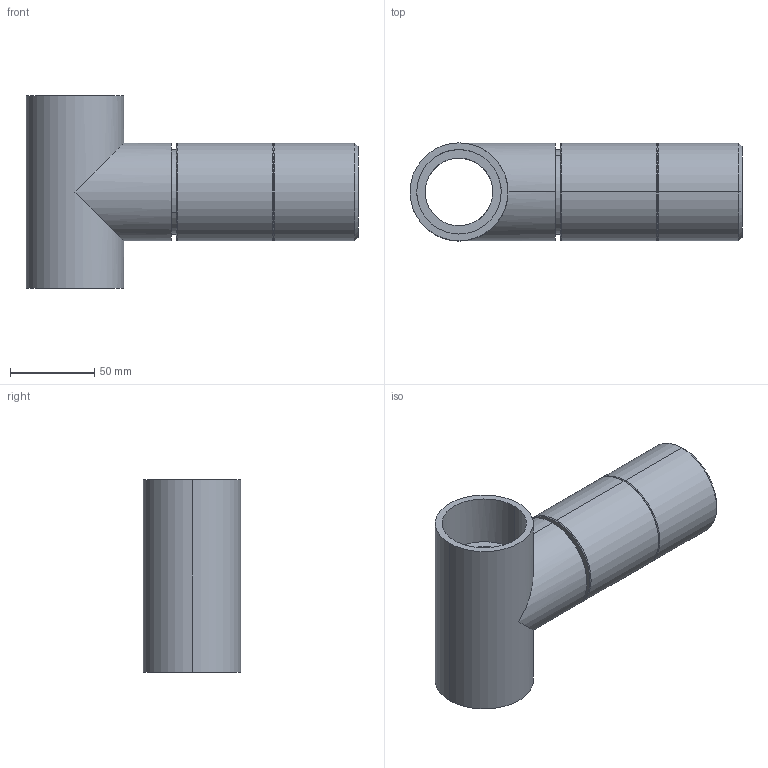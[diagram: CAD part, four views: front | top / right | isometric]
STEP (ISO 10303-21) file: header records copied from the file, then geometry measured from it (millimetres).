
FILE_DESCRIPTION(('CATIA V5 STEP Exchange'),'2;1');
FILE_NAME('C:\Users\cu2001\Catia Dateien\STEP-Dateien\Huscher\Durchflussarmatur NTU - TN00616715.stp','2014-12-11T14:44:03+00:00',('none'),('none'),'CATIA Version 5 Release 20 SP 7 (IN-10)','CATIA V5 STEP AP203','none');
FILE_SCHEMA(('CONFIG_CONTROL_DESIGN'));
Length unit declared in the file: millimetre
Products named in the file (1): Durchflussarmatur NTU - TN00616715
Bounding box: 196.5 x 58 x 114 mm (x, y, z)
Volume: 398335.7 mm3; surface area: 113264.2 mm2
Topology: 9 solids, 9 shells, 231 faces, 518 edges, 310 vertices
Faces by surface type: cylinder 72, cone 65, plane 54, torus 24, bspline 16
Entity records: 7318 total; most frequent: CARTESIAN_POINT 2732, ORIENTED_EDGE 1024, DIRECTION 698, EDGE_CURVE 512, AXIS2_PLACEMENT_3D 375, VERTEX_POINT 310, EDGE_LOOP 260, ADVANCED_FACE 231
